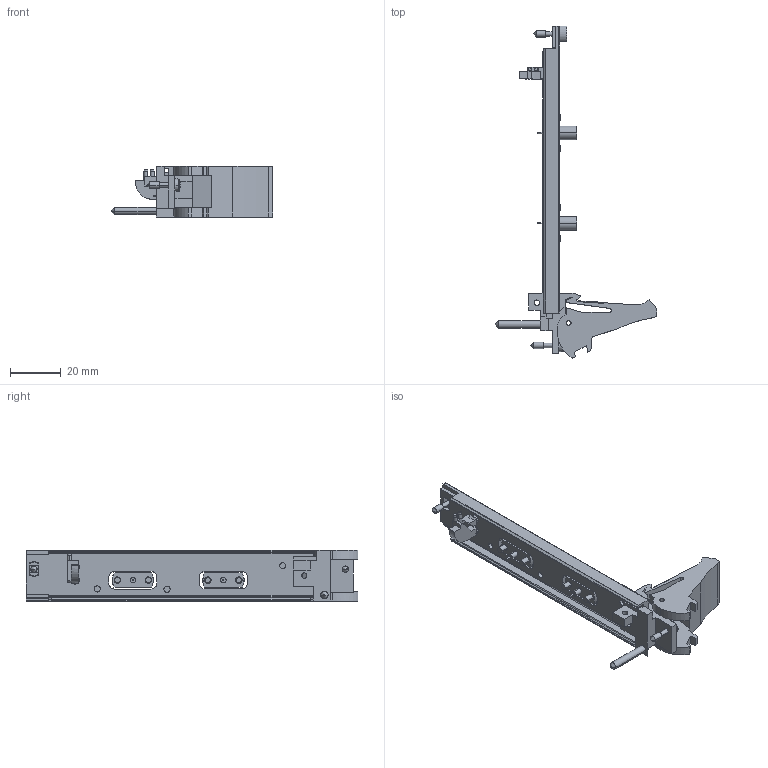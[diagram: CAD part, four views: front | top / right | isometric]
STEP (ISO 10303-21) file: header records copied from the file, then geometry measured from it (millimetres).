
FILE_DESCRIPTION((''),'2;1');
FILE_NAME('CU_PXI-565X','2009-12-31T',('jjorden'),(''),'PRO/ENGINEER BY PARAMETRIC TECHNOLOGY CORPORATION, 2006080','PRO/ENGINEER BY PARAMETRIC TECHNOLOGY CORPORATION, 2006080','');
FILE_SCHEMA(('CONFIG_CONTROL_DESIGN'));
Length unit declared in the file: inch
Products named in the file (1): CU_PXI-565X
Bounding box: 63.53 x 130.5 x 20.31 mm (x, y, z)
Volume: 15754 mm3; surface area: 16753.2 mm2
Topology: 5 solids, 5 shells, 640 faces, 1666 edges, 983 vertices
Faces by surface type: plane 357, cylinder 155, bspline 80, cone 20, sphere 16, torus 12
Entity records: 20720 total; most frequent: CARTESIAN_POINT 5617, ORIENTED_EDGE 3156, DIRECTION 3017, EDGE_CURVE 1578, VERTEX_POINT 1059, AXIS2_PLACEMENT_3D 1036, VECTOR 945, LINE 945
